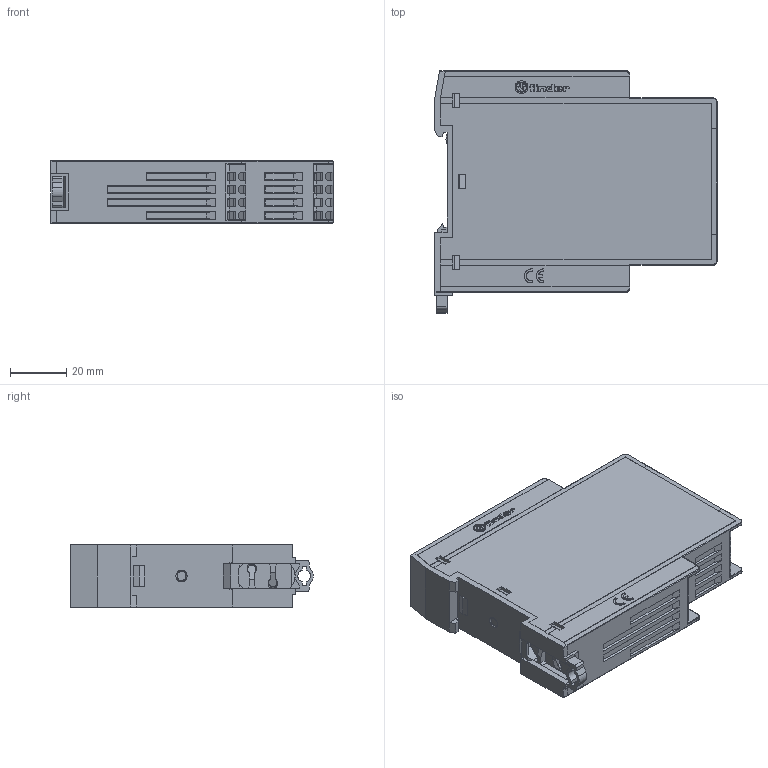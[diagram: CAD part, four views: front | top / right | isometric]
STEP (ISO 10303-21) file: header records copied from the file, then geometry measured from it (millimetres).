
FILE_DESCRIPTION(('STEP AP214'),'2;1');
FILE_NAME('7S_4_222_catalogo_OK.stp','2011-10-28T08:08:32',(''),(''),'2007.1.106','THINKDESIGN','');
FILE_SCHEMA(('AUTOMOTIVE_DESIGN'));
Products named in the file (1): None
Bounding box: 100.3 x 86.25 x 22.5 mm (x, y, z)
Surface area: 45343.1 mm2 (no closed solid volume)
Topology: 0 solids, 0 shells, 1281 faces, 7839 edges, 7839 vertices
Faces by surface type: plane 813, cylinder 295, bspline 173
Full cylindrical faces by diameter (mm): 3 x2
Entity records: 79833 total; most frequent: CARTESIAN_POINT 25840, DIRECTION 9215, COMPOSITE_CURVE_SEGMENT 7827, TRIMMED_CURVE 6482, VECTOR 5965, LINE 5965, AXIS2_PLACEMENT_3D 1625, OUTER_BOUNDARY_CURVE 1281
